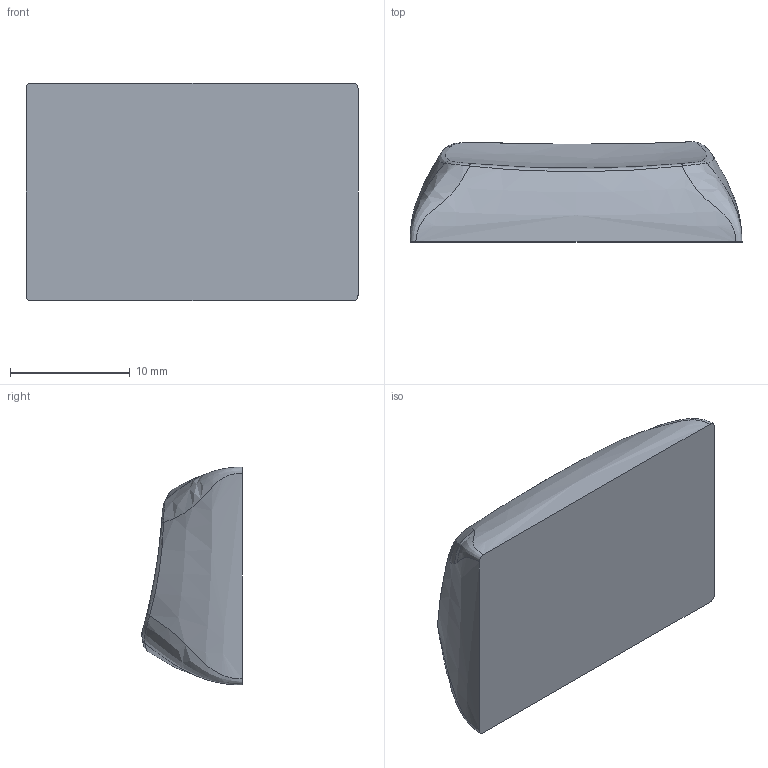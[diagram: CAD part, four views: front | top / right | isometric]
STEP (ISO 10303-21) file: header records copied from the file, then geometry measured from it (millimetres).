
FILE_DESCRIPTION (( 'STEP AP203' ), '1' );
FILE_NAME ('R4_1,5U_base_v3.2_GMK.STEP', '2023-03-07T10:10:10', ( '' ), ( '' ), 'SwSTEP 2.0', 'SolidWorks 2022', '' );
FILE_SCHEMA (( 'CONFIG_CONTROL_DESIGN' ));
Length unit declared in the file: millimetre
Products named in the file (1): R4_1,5U_base_v3.2_GMK
Bounding box: 27.72 x 8.39 x 18.2 mm (x, y, z)
Volume: 2999.7 mm3; surface area: 1433.5 mm2
Topology: 1 solids, 1 shells, 17 faces, 39 edges, 24 vertices
Faces by surface type: bspline 16, plane 1
Entity records: 2966 total; most frequent: CARTESIAN_POINT 2641, ORIENTED_EDGE 78, EDGE_CURVE 39, B_SPLINE_CURVE_WITH_KNOTS 36, VERTEX_POINT 24, FACE_OUTER_BOUND 17, EDGE_LOOP 17, ADVANCED_FACE 17
